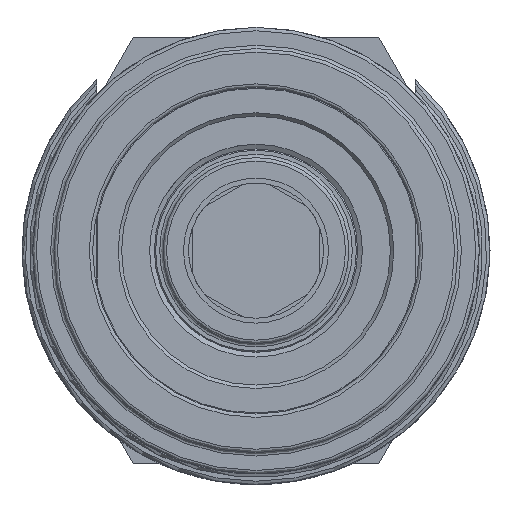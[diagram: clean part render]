
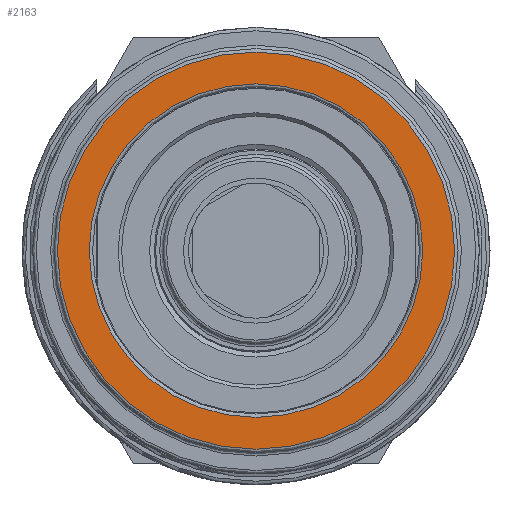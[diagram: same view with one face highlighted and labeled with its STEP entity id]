
A CAD part, front view. The second image highlights one B-rep face of the part: STEP entity #2163.
In plain terms, the highlighted planar face has unit normal (0, -1, 0).
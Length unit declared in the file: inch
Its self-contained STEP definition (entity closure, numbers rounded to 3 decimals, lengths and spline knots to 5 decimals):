
#47=FACE_BOUND('',#297,.T.);
#176=FACE_OUTER_BOUND('',#296,.T.);
#296=EDGE_LOOP('',(#1498,#1499));
#297=EDGE_LOOP('',(#1500,#1501));
#731=CIRCLE('',#2343,0.49);
#732=CIRCLE('',#2344,0.49);
#734=CIRCLE('',#2347,0.5835);
#735=CIRCLE('',#2348,0.5835);
#883=VERTEX_POINT('',#3406);
#884=VERTEX_POINT('',#3408);
#885=VERTEX_POINT('',#3413);
#886=VERTEX_POINT('',#3414);
#1124=EDGE_CURVE('',#883,#884,#731,.T.);
#1125=EDGE_CURVE('',#884,#883,#732,.T.);
#1127=EDGE_CURVE('',#885,#886,#734,.T.);
#1128=EDGE_CURVE('',#886,#885,#735,.T.);
#1498=ORIENTED_EDGE('',*,*,#1127,.F.);
#1499=ORIENTED_EDGE('',*,*,#1128,.F.);
#1500=ORIENTED_EDGE('',*,*,#1125,.F.);
#1501=ORIENTED_EDGE('',*,*,#1124,.F.);
#2089=PLANE('',#2346);
#2163=ADVANCED_FACE('',(#176,#47),#2089,.T.);
#2343=AXIS2_PLACEMENT_3D('',#3409,#2670,#2671);
#2344=AXIS2_PLACEMENT_3D('',#3410,#2672,#2673);
#2346=AXIS2_PLACEMENT_3D('',#3412,#2676,#2677);
#2347=AXIS2_PLACEMENT_3D('',#3415,#2678,#2679);
#2348=AXIS2_PLACEMENT_3D('',#3416,#2680,#2681);
#2670=DIRECTION('center_axis',(0.,-1.,0.));
#2671=DIRECTION('ref_axis',(0.,0.,1.));
#2672=DIRECTION('center_axis',(0.,-1.,0.));
#2673=DIRECTION('ref_axis',(0.,0.,1.));
#2676=DIRECTION('center_axis',(0.,-1.,0.));
#2677=DIRECTION('ref_axis',(0.,0.,-1.));
#2678=DIRECTION('center_axis',(0.,1.,0.));
#2679=DIRECTION('ref_axis',(0.,0.,1.));
#2680=DIRECTION('center_axis',(0.,1.,0.));
#2681=DIRECTION('ref_axis',(0.,0.,1.));
#3406=CARTESIAN_POINT('',(0.,0.,0.49));
#3408=CARTESIAN_POINT('',(0.,0.,-0.49));
#3409=CARTESIAN_POINT('Origin',(0.,0.,0.));
#3410=CARTESIAN_POINT('Origin',(0.,0.,0.));
#3412=CARTESIAN_POINT('Origin',(0.,0.,-0.48));
#3413=CARTESIAN_POINT('',(0.,0.,-0.5835));
#3414=CARTESIAN_POINT('',(0.,0.,0.5835));
#3415=CARTESIAN_POINT('Origin',(0.,0.,0.));
#3416=CARTESIAN_POINT('Origin',(0.,0.,0.));
